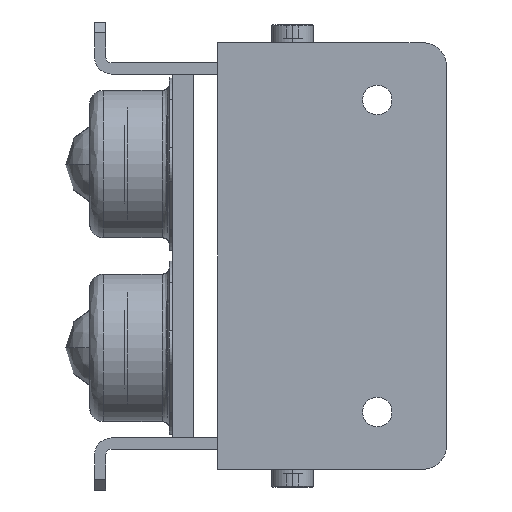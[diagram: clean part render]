
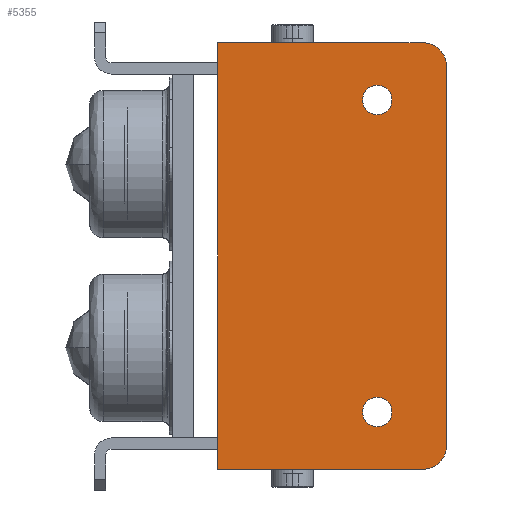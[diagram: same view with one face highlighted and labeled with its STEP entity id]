
A CAD part, left-side view. The second image highlights one B-rep face of the part: STEP entity #5355.
In plain terms, the highlighted planar face has unit normal (-1, 0, 0).
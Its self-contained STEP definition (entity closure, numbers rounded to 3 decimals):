
#54 = DIRECTION ( 'NONE',  ( 1., 0., 0. ) ) ;
#76 = CARTESIAN_POINT ( 'NONE',  ( -6., -13., -40.75 ) ) ;
#754 = ORIENTED_EDGE ( 'NONE', *, *, #5133, .F. ) ;
#782 = CARTESIAN_POINT ( 'NONE',  ( -6., -26.2, 61.5 ) ) ;
#1105 = CARTESIAN_POINT ( 'NONE',  ( -6., -26.2, -54.7 ) ) ;
#1253 = LINE ( 'NONE', #9462, #4156 ) ;
#1361 = CARTESIAN_POINT ( 'NONE',  ( -6., -13., 45. ) ) ;
#1512 = VERTEX_POINT ( 'NONE', #3294 ) ;
#1650 = VERTEX_POINT ( 'NONE', #5798 ) ;
#1760 = LINE ( 'NONE', #4297, #2103 ) ;
#2103 = VECTOR ( 'NONE', #3214, 1000. ) ;
#2213 = DIRECTION ( 'NONE',  ( 0., 0., -1. ) ) ;
#2247 = DIRECTION ( 'NONE',  ( 0., 0., -1. ) ) ;
#2437 = DIRECTION ( 'NONE',  ( 0., 0., -1. ) ) ;
#2542 = VERTEX_POINT ( 'NONE', #11837 ) ;
#2676 = VERTEX_POINT ( 'NONE', #8068 ) ;
#3214 = DIRECTION ( 'NONE',  ( 0., 0., 1. ) ) ;
#3257 = DIRECTION ( 'NONE',  ( 1., 0., 0. ) ) ;
#3279 = VERTEX_POINT ( 'NONE', #6513 ) ;
#3294 = CARTESIAN_POINT ( 'NONE',  ( -6., -33., 54.7 ) ) ;
#3823 = CIRCLE ( 'NONE', #8053, 4.25 ) ;
#3975 = FACE_OUTER_BOUND ( 'NONE', #8892, .T. ) ;
#4156 = VECTOR ( 'NONE', #10469, 1000. ) ;
#4297 = CARTESIAN_POINT ( 'NONE',  ( -6., 33., 61.5 ) ) ;
#4318 = FACE_BOUND ( 'NONE', #5085, .T. ) ;
#4488 = ORIENTED_EDGE ( 'NONE', *, *, #5114, .F. ) ;
#4648 = CIRCLE ( 'NONE', #6622, 4.25 ) ;
#4658 = CIRCLE ( 'NONE', #7502, 4.25 ) ;
#4779 = ORIENTED_EDGE ( 'NONE', *, *, #5208, .F. ) ;
#4781 = CARTESIAN_POINT ( 'NONE',  ( -6., -13., -45. ) ) ;
#4810 = ORIENTED_EDGE ( 'NONE', *, *, #4932, .T. ) ;
#4932 = EDGE_CURVE ( 'NONE', #2676, #11410, #3823, .T. ) ;
#4966 = DIRECTION ( 'NONE',  ( 0., -1., 0. ) ) ;
#5007 = EDGE_CURVE ( 'NONE', #2542, #8136, #4658, .T. ) ;
#5085 = EDGE_LOOP ( 'NONE', ( #6794, #5627 ) ) ;
#5114 = EDGE_CURVE ( 'NONE', #1650, #6460, #13576, .T. ) ;
#5133 = EDGE_CURVE ( 'NONE', #1512, #11450, #5544, .T. ) ;
#5208 = EDGE_CURVE ( 'NONE', #8305, #3279, #1253, .T. ) ;
#5302 = EDGE_CURVE ( 'NONE', #3279, #1650, #1760, .T. ) ;
#5305 = EDGE_CURVE ( 'NONE', #11410, #2676, #7199, .T. ) ;
#5321 = EDGE_CURVE ( 'NONE', #8136, #2542, #4648, .T. ) ;
#5324 = EDGE_CURVE ( 'NONE', #11450, #8305, #7543, .T. ) ;
#5342 = EDGE_CURVE ( 'NONE', #6460, #1512, #9668, .T. ) ;
#5355 = ADVANCED_FACE ( 'NONE', ( #12409, #4318, #3975 ), #5505, .T. ) ;
#5466 = CARTESIAN_POINT ( 'NONE',  ( -6., -13., -45. ) ) ;
#5490 = EDGE_LOOP ( 'NONE', ( #4810, #13096 ) ) ;
#5505 = PLANE ( 'NONE',  #6201 ) ;
#5544 = LINE ( 'NONE', #10290, #7716 ) ;
#5627 = ORIENTED_EDGE ( 'NONE', *, *, #5321, .T. ) ;
#5798 = CARTESIAN_POINT ( 'NONE',  ( -6., 33., 61.5 ) ) ;
#5905 = DIRECTION ( 'NONE',  ( 0., 0., -1. ) ) ;
#6201 = AXIS2_PLACEMENT_3D ( 'NONE', #10753, #8719, #2247 ) ;
#6284 = AXIS2_PLACEMENT_3D ( 'NONE', #6607, #54, #7668 ) ;
#6348 = AXIS2_PLACEMENT_3D ( 'NONE', #1105, #8677, #2213 ) ;
#6460 = VERTEX_POINT ( 'NONE', #782 ) ;
#6513 = CARTESIAN_POINT ( 'NONE',  ( -6., 33., -61.5 ) ) ;
#6553 = AXIS2_PLACEMENT_3D ( 'NONE', #9669, #3257, #10709 ) ;
#6557 = DIRECTION ( 'NONE',  ( 0., 0., -1. ) ) ;
#6607 = CARTESIAN_POINT ( 'NONE',  ( -6., -26.2, 54.7 ) ) ;
#6622 = AXIS2_PLACEMENT_3D ( 'NONE', #5466, #12807, #6557 ) ;
#6794 = ORIENTED_EDGE ( 'NONE', *, *, #5007, .T. ) ;
#7151 = DIRECTION ( 'NONE',  ( 0., 0., -1. ) ) ;
#7199 = CIRCLE ( 'NONE', #6553, 4.25 ) ;
#7502 = AXIS2_PLACEMENT_3D ( 'NONE', #4781, #12160, #5905 ) ;
#7543 = CIRCLE ( 'NONE', #6348, 6.8 ) ;
#7668 = DIRECTION ( 'NONE',  ( 0., 0., -1. ) ) ;
#7716 = VECTOR ( 'NONE', #7151, 1000. ) ;
#8040 = VECTOR ( 'NONE', #4966, 1000. ) ;
#8053 = AXIS2_PLACEMENT_3D ( 'NONE', #1361, #8910, #2437 ) ;
#8068 = CARTESIAN_POINT ( 'NONE',  ( -6., -13., 40.75 ) ) ;
#8136 = VERTEX_POINT ( 'NONE', #76 ) ;
#8305 = VERTEX_POINT ( 'NONE', #12029 ) ;
#8677 = DIRECTION ( 'NONE',  ( 1., 0., 0. ) ) ;
#8719 = DIRECTION ( 'NONE',  ( -1., 0., 0. ) ) ;
#8892 = EDGE_LOOP ( 'NONE', ( #4488, #11582, #4779, #11206, #754, #12988 ) ) ;
#8910 = DIRECTION ( 'NONE',  ( 1., 0., 0. ) ) ;
#9462 = CARTESIAN_POINT ( 'NONE',  ( -6., 33., -61.5 ) ) ;
#9668 = CIRCLE ( 'NONE', #6284, 6.8 ) ;
#9669 = CARTESIAN_POINT ( 'NONE',  ( -6., -13., 45. ) ) ;
#10253 = CARTESIAN_POINT ( 'NONE',  ( -6., 33., 61.5 ) ) ;
#10290 = CARTESIAN_POINT ( 'NONE',  ( -6., -33., 61.5 ) ) ;
#10469 = DIRECTION ( 'NONE',  ( 0., 1., 0. ) ) ;
#10709 = DIRECTION ( 'NONE',  ( 0., 0., -1. ) ) ;
#10715 = CARTESIAN_POINT ( 'NONE',  ( -6., -33., -54.7 ) ) ;
#10753 = CARTESIAN_POINT ( 'NONE',  ( -6., 0., 0. ) ) ;
#11206 = ORIENTED_EDGE ( 'NONE', *, *, #5324, .F. ) ;
#11410 = VERTEX_POINT ( 'NONE', #12718 ) ;
#11450 = VERTEX_POINT ( 'NONE', #10715 ) ;
#11582 = ORIENTED_EDGE ( 'NONE', *, *, #5302, .F. ) ;
#11837 = CARTESIAN_POINT ( 'NONE',  ( -6., -13., -49.25 ) ) ;
#12029 = CARTESIAN_POINT ( 'NONE',  ( -6., -26.2, -61.5 ) ) ;
#12160 = DIRECTION ( 'NONE',  ( 1., 0., 0. ) ) ;
#12409 = FACE_BOUND ( 'NONE', #5490, .T. ) ;
#12718 = CARTESIAN_POINT ( 'NONE',  ( -6., -13., 49.25 ) ) ;
#12807 = DIRECTION ( 'NONE',  ( 1., 0., 0. ) ) ;
#12988 = ORIENTED_EDGE ( 'NONE', *, *, #5342, .F. ) ;
#13096 = ORIENTED_EDGE ( 'NONE', *, *, #5305, .T. ) ;
#13576 = LINE ( 'NONE', #10253, #8040 ) ;
